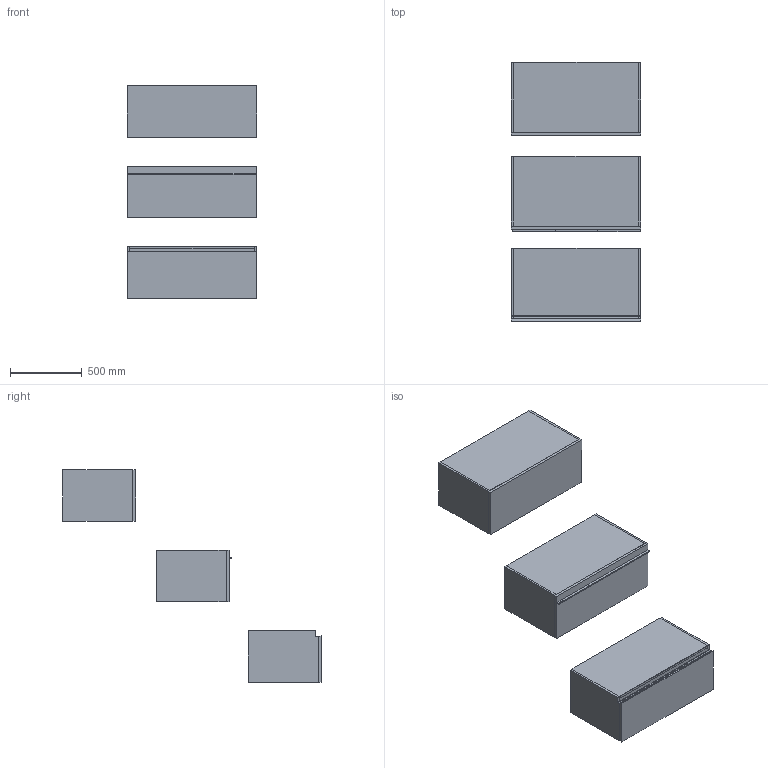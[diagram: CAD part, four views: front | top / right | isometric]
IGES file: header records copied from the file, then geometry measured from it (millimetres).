
Start section: Data from Parasolid IGES Translator 19.0.9, Copyright(c) 2006 Siemens PL M Software. All Rights Reserved.
Global section: file name: noorth-SI-H 36 D 51 W 108_8370.igs; native system: By Siemens PLM Incorporated; preprocessor: XPlus GENERIC/IGES 19.0.9; author: Noname; organization: Noname; date: 20200601.095403; units: metre
Bounding box: 900.01 x 1799.15 x 1480 mm (x, y, z)
Volume: 77453200 mm3; surface area: 11455790.3 mm2
Topology: 20 solids, 20 shells, 178 faces, 382 edges, 234 vertices
Faces by surface type: plane 134, extrusion 16, bspline 16, cylinder 12
